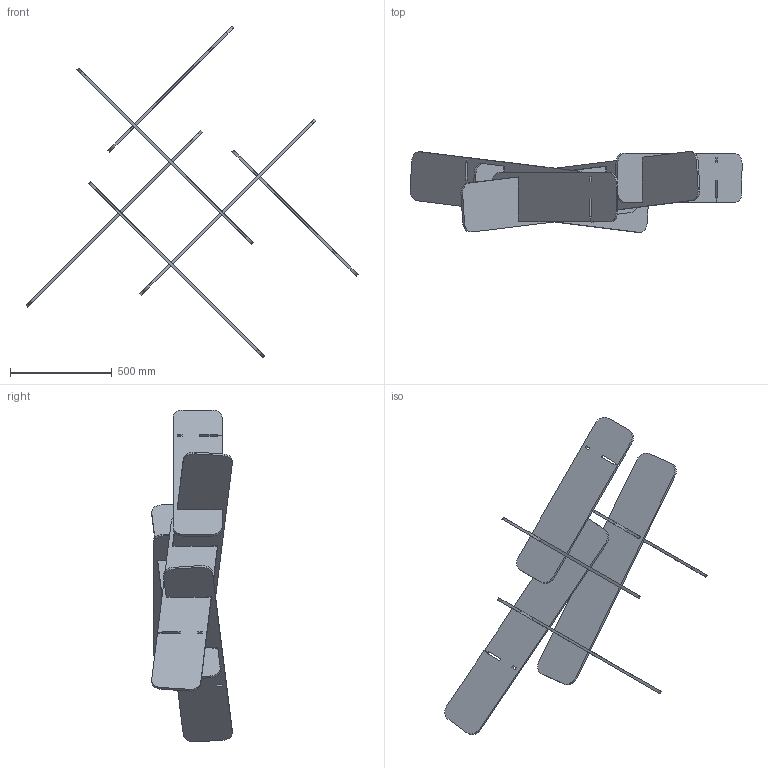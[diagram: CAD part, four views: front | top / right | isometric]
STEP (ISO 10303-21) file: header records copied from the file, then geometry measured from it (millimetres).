
FILE_DESCRIPTION(/* description */ (''),/* implementation_level */ '2;1');
FILE_NAME(/* name */ 'Y:\Design and Engineering\MaterialLogiq\CAD ASSETS\MASTER\GRAFFLE\WEB ASSETS\PET GRAFFLE_4x4_5DEG_ROUND.stp',/* time_stamp */ '2023-11-14T13:20:50-06:00',/* author */ ('Grant Baker'),/* organization */ (''),/* preprocessor_version */ 'ST-DEVELOPER v19',/* originating_system */ 'Autodesk Inventor 2023',/* authorisation */ '');
FILE_SCHEMA (('AUTOMOTIVE_DESIGN { 1 0 10303 214 3 1 1 }'));
Length unit declared in the file: inch
Products named in the file (4): PET GRAFFLE_4x4_5DEG_ROUND; PET GRAFFLE_4x4_B_5DEG_ROUND; PET GRAFFLE_4x4_A_5DEG_ROUND; PET GRAFFLE_4x4_LINK_5DEG_ROUND
Assembly tree (6 placements, depth 2):
  PET GRAFFLE_4x4_5DEG_ROUND
    PET GRAFFLE_4x4_B_5DEG_ROUND  x2
    PET GRAFFLE_4x4_A_5DEG_ROUND  x2
    PET GRAFFLE_4x4_LINK_5DEG_ROUND  x2
Bounding box: 1631.66 x 396.02 x 1631.61 mm (x, y, z)
Volume: 18843927.6 mm3; surface area: 3339697.8 mm2
Topology: 6 solids, 6 shells, 252 faces, 720 edges, 480 vertices
Faces by surface type: plane 228, cylinder 24
Entity records: 4251 total; most frequent: CARTESIAN_POINT 736, ORIENTED_EDGE 720, DIRECTION 656, EDGE_CURVE 360, LINE 336, VECTOR 336, VERTEX_POINT 240, AXIS2_PLACEMENT_3D 160
